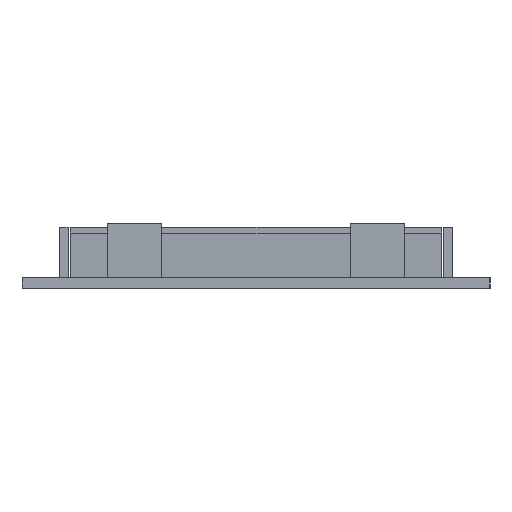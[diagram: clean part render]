
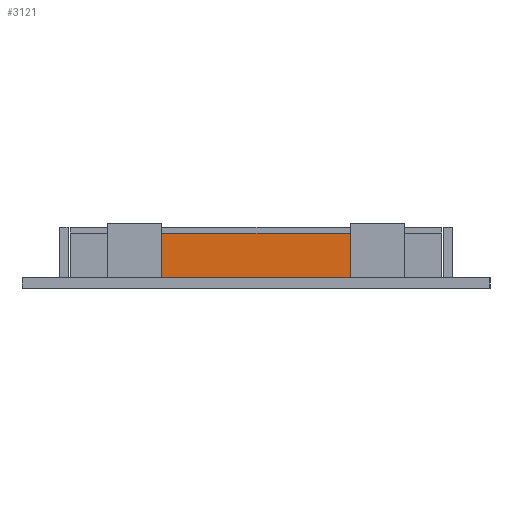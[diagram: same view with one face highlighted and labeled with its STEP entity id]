
A CAD part, left-side view. The second image highlights one B-rep face of the part: STEP entity #3121.
In plain terms, the highlighted planar face has unit normal (-1, 0, 0).
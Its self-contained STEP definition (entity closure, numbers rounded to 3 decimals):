
#126 = PLANE('',#127);
#127 = AXIS2_PLACEMENT_3D('',#128,#129,#130);
#128 = CARTESIAN_POINT('',(0.,0.,2.4));
#129 = DIRECTION('',(0.,0.,1.));
#130 = DIRECTION('',(1.,0.,-0.));
#673 = VERTEX_POINT('',#674);
#674 = CARTESIAN_POINT('',(8.,31.,2.4));
#687 = PLANE('',#688);
#688 = AXIS2_PLACEMENT_3D('',#689,#690,#691);
#689 = CARTESIAN_POINT('',(1.,31.,2.3));
#690 = DIRECTION('',(-0.,1.,0.));
#691 = DIRECTION('',(0.,0.,1.));
#698 = EDGE_CURVE('',#673,#699,#701,.T.);
#699 = VERTEX_POINT('',#700);
#700 = CARTESIAN_POINT('',(8.,73.,2.4));
#701 = SURFACE_CURVE('',#702,(#706,#712),.PCURVE_S1.);
#702 = LINE('',#703,#704);
#703 = CARTESIAN_POINT('',(8.,5.375,2.4));
#704 = VECTOR('',#705,1.);
#705 = DIRECTION('',(-0.,1.,0.));
#706 = PCURVE('',#126,#707);
#707 = DEFINITIONAL_REPRESENTATION('',(#708),#711);
#708 = B_SPLINE_CURVE_WITH_KNOTS('',1,(#709,#710),.UNSPECIFIED.,.F.,.F.,
  (2,2),(5.375,87.875),.PIECEWISE_BEZIER_KNOTS.);
#709 = CARTESIAN_POINT('',(8.,10.75));
#710 = CARTESIAN_POINT('',(8.,93.25));
#711 = ( GEOMETRIC_REPRESENTATION_CONTEXT(2) 
PARAMETRIC_REPRESENTATION_CONTEXT() REPRESENTATION_CONTEXT('2D SPACE',''
  ) );
#712 = PCURVE('',#713,#718);
#713 = PLANE('',#714);
#714 = AXIS2_PLACEMENT_3D('',#715,#716,#717);
#715 = CARTESIAN_POINT('',(8.,10.75,2.3));
#716 = DIRECTION('',(1.,0.,-0.));
#717 = DIRECTION('',(0.,0.,1.));
#718 = DEFINITIONAL_REPRESENTATION('',(#719),#722);
#719 = B_SPLINE_CURVE_WITH_KNOTS('',1,(#720,#721),.UNSPECIFIED.,.F.,.F.,
  (2,2),(5.375,87.875),.PIECEWISE_BEZIER_KNOTS.);
#720 = CARTESIAN_POINT('',(0.1,0.));
#721 = CARTESIAN_POINT('',(0.1,-82.5));
#722 = ( GEOMETRIC_REPRESENTATION_CONTEXT(2) 
PARAMETRIC_REPRESENTATION_CONTEXT() REPRESENTATION_CONTEXT('2D SPACE',''
  ) );
#739 = PLANE('',#740);
#740 = AXIS2_PLACEMENT_3D('',#741,#742,#743);
#741 = CARTESIAN_POINT('',(1.,73.,2.3));
#742 = DIRECTION('',(-0.,1.,0.));
#743 = DIRECTION('',(0.,0.,1.));
#2922 = VERTEX_POINT('',#2923);
#2923 = CARTESIAN_POINT('',(8.,31.,12.3));
#2936 = PLANE('',#2937);
#2937 = AXIS2_PLACEMENT_3D('',#2938,#2939,#2940);
#2938 = CARTESIAN_POINT('',(7.5,10.75,12.3));
#2939 = DIRECTION('',(0.,0.,1.));
#2940 = DIRECTION('',(1.,0.,-0.));
#2947 = EDGE_CURVE('',#673,#2922,#2948,.T.);
#2948 = SURFACE_CURVE('',#2949,(#2953,#2959),.PCURVE_S1.);
#2949 = LINE('',#2950,#2951);
#2950 = CARTESIAN_POINT('',(8.,31.,2.3));
#2951 = VECTOR('',#2952,1.);
#2952 = DIRECTION('',(0.,0.,1.));
#2953 = PCURVE('',#687,#2954);
#2954 = DEFINITIONAL_REPRESENTATION('',(#2955),#2958);
#2955 = B_SPLINE_CURVE_WITH_KNOTS('',1,(#2956,#2957),.UNSPECIFIED.,.F.,
  .F.,(2,2),(0.1,10.),.PIECEWISE_BEZIER_KNOTS.);
#2956 = CARTESIAN_POINT('',(0.1,7.));
#2957 = CARTESIAN_POINT('',(10.,7.));
#2958 = ( GEOMETRIC_REPRESENTATION_CONTEXT(2) 
PARAMETRIC_REPRESENTATION_CONTEXT() REPRESENTATION_CONTEXT('2D SPACE',''
  ) );
#2959 = PCURVE('',#713,#2960);
#2960 = DEFINITIONAL_REPRESENTATION('',(#2961),#2964);
#2961 = B_SPLINE_CURVE_WITH_KNOTS('',1,(#2962,#2963),.UNSPECIFIED.,.F.,
  .F.,(2,2),(0.1,10.),.PIECEWISE_BEZIER_KNOTS.);
#2962 = CARTESIAN_POINT('',(0.1,-20.25));
#2963 = CARTESIAN_POINT('',(10.,-20.25));
#2964 = ( GEOMETRIC_REPRESENTATION_CONTEXT(2) 
PARAMETRIC_REPRESENTATION_CONTEXT() REPRESENTATION_CONTEXT('2D SPACE',''
  ) );
#3060 = VERTEX_POINT('',#3061);
#3061 = CARTESIAN_POINT('',(8.,73.,12.3));
#3080 = EDGE_CURVE('',#699,#3060,#3081,.T.);
#3081 = SURFACE_CURVE('',#3082,(#3086,#3092),.PCURVE_S1.);
#3082 = LINE('',#3083,#3084);
#3083 = CARTESIAN_POINT('',(8.,73.,2.3));
#3084 = VECTOR('',#3085,1.);
#3085 = DIRECTION('',(0.,0.,1.));
#3086 = PCURVE('',#739,#3087);
#3087 = DEFINITIONAL_REPRESENTATION('',(#3088),#3091);
#3088 = B_SPLINE_CURVE_WITH_KNOTS('',1,(#3089,#3090),.UNSPECIFIED.,.F.,
  .F.,(2,2),(0.1,10.),.PIECEWISE_BEZIER_KNOTS.);
#3089 = CARTESIAN_POINT('',(0.1,7.));
#3090 = CARTESIAN_POINT('',(10.,7.));
#3091 = ( GEOMETRIC_REPRESENTATION_CONTEXT(2) 
PARAMETRIC_REPRESENTATION_CONTEXT() REPRESENTATION_CONTEXT('2D SPACE',''
  ) );
#3092 = PCURVE('',#713,#3093);
#3093 = DEFINITIONAL_REPRESENTATION('',(#3094),#3097);
#3094 = B_SPLINE_CURVE_WITH_KNOTS('',1,(#3095,#3096),.UNSPECIFIED.,.F.,
  .F.,(2,2),(0.1,10.),.PIECEWISE_BEZIER_KNOTS.);
#3095 = CARTESIAN_POINT('',(0.1,-62.25));
#3096 = CARTESIAN_POINT('',(10.,-62.25));
#3097 = ( GEOMETRIC_REPRESENTATION_CONTEXT(2) 
PARAMETRIC_REPRESENTATION_CONTEXT() REPRESENTATION_CONTEXT('2D SPACE',''
  ) );
#3121 = ADVANCED_FACE('',(#3122),#713,.F.);
#3122 = FACE_BOUND('',#3123,.F.);
#3123 = EDGE_LOOP('',(#3124,#3125,#3126,#3127));
#3124 = ORIENTED_EDGE('',*,*,#2947,.F.);
#3125 = ORIENTED_EDGE('',*,*,#698,.T.);
#3126 = ORIENTED_EDGE('',*,*,#3080,.T.);
#3127 = ORIENTED_EDGE('',*,*,#3128,.T.);
#3128 = EDGE_CURVE('',#3060,#2922,#3129,.T.);
#3129 = SURFACE_CURVE('',#3130,(#3134,#3140),.PCURVE_S1.);
#3130 = LINE('',#3131,#3132);
#3131 = CARTESIAN_POINT('',(8.,10.75,12.3));
#3132 = VECTOR('',#3133,1.);
#3133 = DIRECTION('',(0.,-1.,0.));
#3134 = PCURVE('',#713,#3135);
#3135 = DEFINITIONAL_REPRESENTATION('',(#3136),#3139);
#3136 = B_SPLINE_CURVE_WITH_KNOTS('',1,(#3137,#3138),.UNSPECIFIED.,.F.,
  .F.,(2,2),(-82.5,0.),.PIECEWISE_BEZIER_KNOTS.);
#3137 = CARTESIAN_POINT('',(10.,-82.5));
#3138 = CARTESIAN_POINT('',(10.,0.));
#3139 = ( GEOMETRIC_REPRESENTATION_CONTEXT(2) 
PARAMETRIC_REPRESENTATION_CONTEXT() REPRESENTATION_CONTEXT('2D SPACE',''
  ) );
#3140 = PCURVE('',#2936,#3141);
#3141 = DEFINITIONAL_REPRESENTATION('',(#3142),#3145);
#3142 = B_SPLINE_CURVE_WITH_KNOTS('',1,(#3143,#3144),.UNSPECIFIED.,.F.,
  .F.,(2,2),(-82.5,0.),.PIECEWISE_BEZIER_KNOTS.);
#3143 = CARTESIAN_POINT('',(0.5,82.5));
#3144 = CARTESIAN_POINT('',(0.5,0.));
#3145 = ( GEOMETRIC_REPRESENTATION_CONTEXT(2) 
PARAMETRIC_REPRESENTATION_CONTEXT() REPRESENTATION_CONTEXT('2D SPACE',''
  ) );
